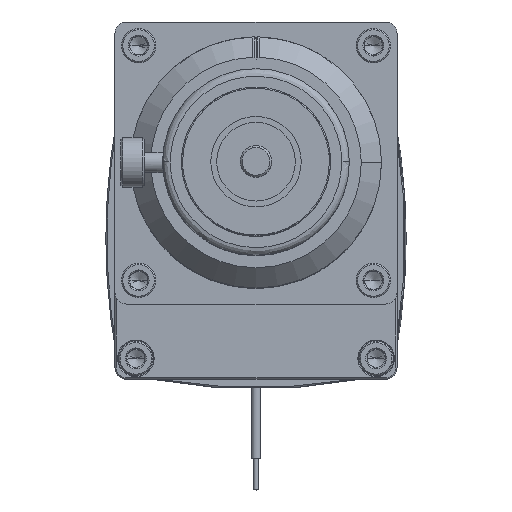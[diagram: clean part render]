
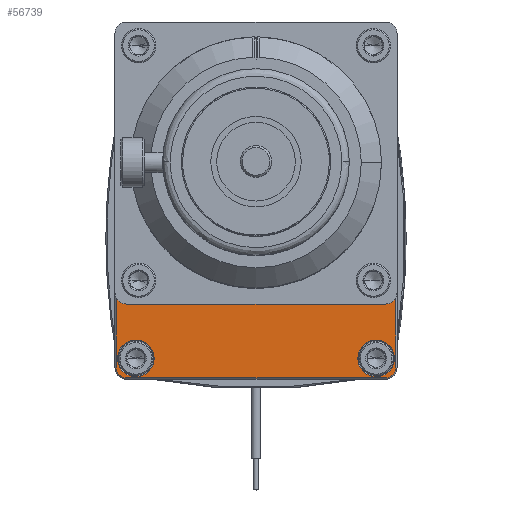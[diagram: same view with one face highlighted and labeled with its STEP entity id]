
A CAD part, top view. The second image highlights one B-rep face of the part: STEP entity #56739.
In plain terms, the highlighted planar face has unit normal (0, 0, 1).
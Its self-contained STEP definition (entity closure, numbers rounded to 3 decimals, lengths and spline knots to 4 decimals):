
#4224 = AXIS2_PLACEMENT_3D ( 'NONE', #51109, #51110, #51111 ) ;
#5074 = CARTESIAN_POINT ( 'NONE',  ( -2.8067, -0.7544, -16.1943 ) ) ;
#5076 = DIRECTION ( 'NONE',  ( 0., -1., 0. ) ) ;
#8818 = AXIS2_PLACEMENT_3D ( 'NONE', #55645, #55646, #55647 ) ;
#8875 = AXIS2_PLACEMENT_3D ( 'NONE', #56075, #56076, #56077 ) ;
#11159 = CIRCLE ( 'NONE', #62196, 0.3683 ) ;
#22819 = CARTESIAN_POINT ( 'NONE',  ( -2.5933, -4.1021, -16.1943 ) ) ;
#22820 = DIRECTION ( 'NONE',  ( 0., 0., 1. ) ) ;
#22821 = DIRECTION ( 'NONE',  ( -1., 0., 0. ) ) ;
#25458 = CARTESIAN_POINT ( 'NONE',  ( 2.413, -3.9218, -16.1943 ) ) ;
#25459 = DIRECTION ( 'NONE',  ( 0., 0., -1. ) ) ;
#25460 = DIRECTION ( 'NONE',  ( 1., 0., 0. ) ) ;
#26359 = CIRCLE ( 'NONE', #61862, 0.2134 ) ;
#28578 = VERTEX_POINT ( 'NONE', #46367 ) ;
#28704 = VERTEX_POINT ( 'NONE', #46560 ) ;
#28772 = VERTEX_POINT ( 'NONE', #46652 ) ;
#29061 = VERTEX_POINT ( 'NONE', #47076 ) ;
#29093 = VERTEX_POINT ( 'NONE', #47113 ) ;
#29211 = VERTEX_POINT ( 'NONE', #47273 ) ;
#29328 = VERTEX_POINT ( 'NONE', #47442 ) ;
#29365 = VERTEX_POINT ( 'NONE', #47488 ) ;
#30996 = CIRCLE ( 'NONE', #62398, 0.238 ) ;
#31269 = CIRCLE ( 'NONE', #62492, 0.3683 ) ;
#31783 = CIRCLE ( 'NONE', #62658, 0.2134 ) ;
#32290 = FACE_BOUND ( 'NONE', #70601, .T. ) ;
#32309 = FACE_OUTER_BOUND ( 'NONE', #70485, .T. ) ;
#32454 = FACE_BOUND ( 'NONE', #69291, .T. ) ;
#32583 = LINE ( 'NONE', #5074, #32589 ) ;
#32589 = VECTOR ( 'NONE', #5076, 100. ) ;
#38419 = DIRECTION ( 'NONE',  ( 0., 0., 1. ) ) ;
#38423 = CARTESIAN_POINT ( 'NONE',  ( 0., -0.7544, -16.1943 ) ) ;
#38425 = PLANE ( 'NONE',  #61361 ) ;
#38427 = DIRECTION ( 'NONE',  ( 1., 0., 0. ) ) ;
#46367 = CARTESIAN_POINT ( 'NONE',  ( 2.5933, -4.3155, -16.1943 ) ) ;
#46560 = CARTESIAN_POINT ( 'NONE',  ( -2.8067, -4.1021, -16.1943 ) ) ;
#46652 = CARTESIAN_POINT ( 'NONE',  ( 2.8067, -2.7011, -16.1943 ) ) ;
#47076 = CARTESIAN_POINT ( 'NONE',  ( 2.8067, -4.1021, -16.1943 ) ) ;
#47113 = CARTESIAN_POINT ( 'NONE',  ( -2.5941, -2.8321, -16.1943 ) ) ;
#47273 = CARTESIAN_POINT ( 'NONE',  ( -2.5933, -4.3155, -16.1943 ) ) ;
#47442 = CARTESIAN_POINT ( 'NONE',  ( -2.8067, -2.7011, -16.1943 ) ) ;
#47488 = CARTESIAN_POINT ( 'NONE',  ( 2.5941, -2.8321, -16.1943 ) ) ;
#48614 = CARTESIAN_POINT ( 'NONE',  ( 2.5933, -4.1021, -16.1943 ) ) ;
#48615 = DIRECTION ( 'NONE',  ( 0., 0., 1. ) ) ;
#48616 = DIRECTION ( 'NONE',  ( -1., 0., 0. ) ) ;
#50452 = CARTESIAN_POINT ( 'NONE',  ( 0., -2.8321, -16.1943 ) ) ;
#50454 = DIRECTION ( 'NONE',  ( 1., 0., 0. ) ) ;
#51032 = CARTESIAN_POINT ( 'NONE',  ( 0., -4.3155, -16.1943 ) ) ;
#51035 = DIRECTION ( 'NONE',  ( 1., 0., 0. ) ) ;
#51102 = CARTESIAN_POINT ( 'NONE',  ( 2.8067, -0.7544, -16.1943 ) ) ;
#51103 = DIRECTION ( 'NONE',  ( 0., 1., 0. ) ) ;
#51109 = CARTESIAN_POINT ( 'NONE',  ( -2.5941, -2.5941, -16.1943 ) ) ;
#51110 = DIRECTION ( 'NONE',  ( 0., 0., 1. ) ) ;
#51111 = DIRECTION ( 'NONE',  ( -1., 0., 0. ) ) ;
#53411 = LINE ( 'NONE', #50452, #53415 ) ;
#53415 = VECTOR ( 'NONE', #50454, 100. ) ;
#53605 = LINE ( 'NONE', #51032, #53607 ) ;
#53607 = VECTOR ( 'NONE', #51035, 100. ) ;
#53638 = LINE ( 'NONE', #51102, #53655 ) ;
#53644 = CIRCLE ( 'NONE', #4224, 0.238 ) ;
#53655 = VECTOR ( 'NONE', #51103, 100. ) ;
#55185 = EDGE_CURVE ( 'NONE', #64910, #64161, #65957, .T. ) ;
#55329 = EDGE_CURVE ( 'NONE', #64236, #64377, #66558, .T. ) ;
#55645 = CARTESIAN_POINT ( 'NONE',  ( -2.413, -3.9218, -16.1943 ) ) ;
#55646 = DIRECTION ( 'NONE',  ( 0., 0., -1. ) ) ;
#55647 = DIRECTION ( 'NONE',  ( 1., 0., 0. ) ) ;
#56075 = CARTESIAN_POINT ( 'NONE',  ( 2.413, -3.9218, -16.1943 ) ) ;
#56076 = DIRECTION ( 'NONE',  ( 0., 0., -1. ) ) ;
#56077 = DIRECTION ( 'NONE',  ( 1., 0., 0. ) ) ;
#56739 = ADVANCED_FACE ( 'NONE', ( #32290, #32454, #32309 ), #38425, .T. ) ;
#58037 = EDGE_CURVE ( 'NONE', #28704, #29211, #26359, .T. ) ;
#58586 = EDGE_CURVE ( 'NONE', #64377, #64236, #11159, .T. ) ;
#59211 = EDGE_CURVE ( 'NONE', #29365, #28772, #30996, .T. ) ;
#59498 = EDGE_CURVE ( 'NONE', #64161, #64910, #31269, .T. ) ;
#59991 = EDGE_CURVE ( 'NONE', #28578, #29061, #31783, .T. ) ;
#60691 = EDGE_CURVE ( 'NONE', #29328, #28704, #32583, .T. ) ;
#61132 = EDGE_CURVE ( 'NONE', #29093, #29365, #53411, .T. ) ;
#61206 = CARTESIAN_POINT ( 'NONE',  ( 2.5941, -2.5941, -16.1943 ) ) ;
#61209 = DIRECTION ( 'NONE',  ( 0., 0., 1. ) ) ;
#61210 = DIRECTION ( 'NONE',  ( -1., 0., 0. ) ) ;
#61317 = EDGE_CURVE ( 'NONE', #29211, #28578, #53605, .T. ) ;
#61358 = EDGE_CURVE ( 'NONE', #29328, #29093, #53644, .T. ) ;
#61361 = AXIS2_PLACEMENT_3D ( 'NONE', #38423, #38419, #38427 ) ;
#61363 = EDGE_CURVE ( 'NONE', #29061, #28772, #53638, .T. ) ;
#61862 = AXIS2_PLACEMENT_3D ( 'NONE', #22819, #22820, #22821 ) ;
#62196 = AXIS2_PLACEMENT_3D ( 'NONE', #25458, #25459, #25460 ) ;
#62352 = CARTESIAN_POINT ( 'NONE',  ( -2.413, -3.9218, -16.1943 ) ) ;
#62354 = DIRECTION ( 'NONE',  ( 0., 0., -1. ) ) ;
#62356 = DIRECTION ( 'NONE',  ( 1., 0., 0. ) ) ;
#62398 = AXIS2_PLACEMENT_3D ( 'NONE', #61206, #61209, #61210 ) ;
#62492 = AXIS2_PLACEMENT_3D ( 'NONE', #62352, #62354, #62356 ) ;
#62658 = AXIS2_PLACEMENT_3D ( 'NONE', #48614, #48615, #48616 ) ;
#64161 = VERTEX_POINT ( 'NONE', #68911 ) ;
#64236 = VERTEX_POINT ( 'NONE', #69004 ) ;
#64377 = VERTEX_POINT ( 'NONE', #69100 ) ;
#64910 = VERTEX_POINT ( 'NONE', #69518 ) ;
#65957 = CIRCLE ( 'NONE', #8818, 0.3683 ) ;
#66558 = CIRCLE ( 'NONE', #8875, 0.3683 ) ;
#68911 = CARTESIAN_POINT ( 'NONE',  ( -2.7813, -3.9218, -16.1943 ) ) ;
#69004 = CARTESIAN_POINT ( 'NONE',  ( 2.7813, -3.9218, -16.1943 ) ) ;
#69100 = CARTESIAN_POINT ( 'NONE',  ( 2.0447, -3.9218, -16.1943 ) ) ;
#69265 = ORIENTED_EDGE ( 'NONE', *, *, #61132, .F. ) ;
#69291 = EDGE_LOOP ( 'NONE', ( #70505, #70040 ) ) ;
#69518 = CARTESIAN_POINT ( 'NONE',  ( -2.0447, -3.9218, -16.1943 ) ) ;
#69558 = ORIENTED_EDGE ( 'NONE', *, *, #55329, .T. ) ;
#69914 = ORIENTED_EDGE ( 'NONE', *, *, #60691, .T. ) ;
#69937 = ORIENTED_EDGE ( 'NONE', *, *, #59211, .F. ) ;
#70013 = ORIENTED_EDGE ( 'NONE', *, *, #59991, .T. ) ;
#70040 = ORIENTED_EDGE ( 'NONE', *, *, #59498, .T. ) ;
#70109 = ORIENTED_EDGE ( 'NONE', *, *, #58586, .T. ) ;
#70151 = ORIENTED_EDGE ( 'NONE', *, *, #61317, .T. ) ;
#70282 = ORIENTED_EDGE ( 'NONE', *, *, #58037, .T. ) ;
#70432 = ORIENTED_EDGE ( 'NONE', *, *, #61363, .T. ) ;
#70485 = EDGE_LOOP ( 'NONE', ( #70432, #69937, #69265, #70572, #69914, #70282, #70151, #70013 ) ) ;
#70505 = ORIENTED_EDGE ( 'NONE', *, *, #55185, .T. ) ;
#70572 = ORIENTED_EDGE ( 'NONE', *, *, #61358, .F. ) ;
#70601 = EDGE_LOOP ( 'NONE', ( #69558, #70109 ) ) ;
